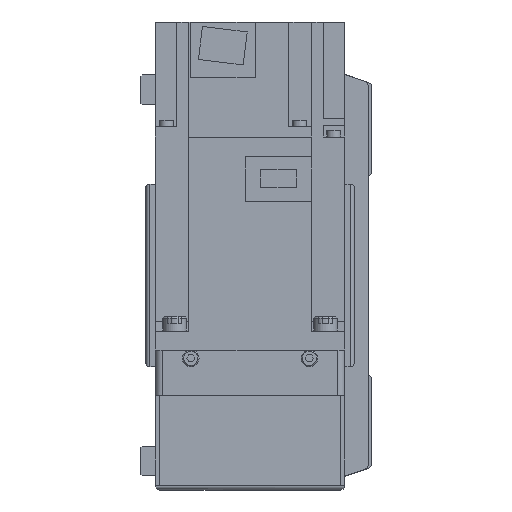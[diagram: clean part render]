
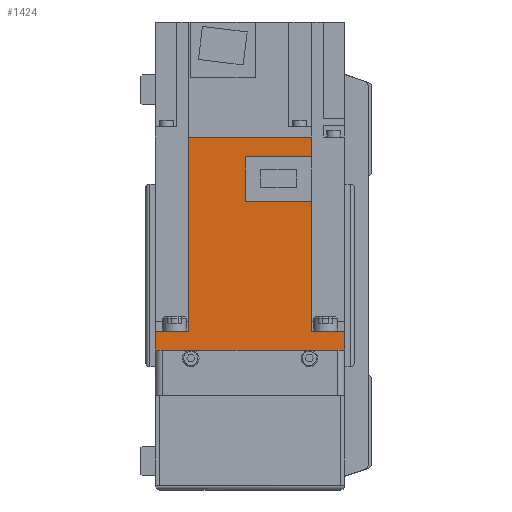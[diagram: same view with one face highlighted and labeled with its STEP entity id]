
A CAD part, left-side view. The second image highlights one B-rep face of the part: STEP entity #1424.
In plain terms, the highlighted planar face has unit normal (-1, 0, 0) as drawn and (1, 0, 0) by its records, which use the part's own axes.
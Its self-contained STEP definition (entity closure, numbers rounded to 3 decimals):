
#1424 = ADVANCED_FACE( '', ( #3636 ), #3637, .F. );
#3636 = FACE_OUTER_BOUND( '', #6882, .T. );
#3637 = PLANE( '', #6883 );
#6882 = EDGE_LOOP( '', ( #10928, #10929, #10930, #10931, #10932, #10933, #10934, #10935, #10936, #10937, #10938, #10939 ) );
#6883 = AXIS2_PLACEMENT_3D( '', #10940, #10941, #10942 );
#10928 = ORIENTED_EDGE( '', *, *, #19332, .F. );
#10929 = ORIENTED_EDGE( '', *, *, #19333, .F. );
#10930 = ORIENTED_EDGE( '', *, *, #19334, .F. );
#10931 = ORIENTED_EDGE( '', *, *, #19335, .T. );
#10932 = ORIENTED_EDGE( '', *, *, #19336, .F. );
#10933 = ORIENTED_EDGE( '', *, *, #19337, .T. );
#10934 = ORIENTED_EDGE( '', *, *, #19338, .T. );
#10935 = ORIENTED_EDGE( '', *, *, #19339, .F. );
#10936 = ORIENTED_EDGE( '', *, *, #18989, .F. );
#10937 = ORIENTED_EDGE( '', *, *, #19340, .F. );
#10938 = ORIENTED_EDGE( '', *, *, #19341, .F. );
#10939 = ORIENTED_EDGE( '', *, *, #19313, .F. );
#10940 = CARTESIAN_POINT( '', ( 40., 89.8, 40. ) );
#10941 = DIRECTION( '', ( -1., 0., 0. ) );
#10942 = DIRECTION( '', ( 0., 0., 1. ) );
#18989 = EDGE_CURVE( '', #22790, #22791, #22792, .T. );
#19313 = EDGE_CURVE( '', #23346, #23347, #23348, .T. );
#19332 = EDGE_CURVE( '', #23379, #23346, #23380, .T. );
#19333 = EDGE_CURVE( '', #23381, #23379, #23382, .T. );
#19334 = EDGE_CURVE( '', #23383, #23381, #23384, .T. );
#19335 = EDGE_CURVE( '', #23383, #23385, #23386, .T. );
#19336 = EDGE_CURVE( '', #23387, #23385, #23388, .T. );
#19337 = EDGE_CURVE( '', #23387, #23389, #23390, .T. );
#19338 = EDGE_CURVE( '', #23389, #23391, #23392, .T. );
#19339 = EDGE_CURVE( '', #22791, #23391, #23393, .T. );
#19340 = EDGE_CURVE( '', #23394, #22790, #23395, .T. );
#19341 = EDGE_CURVE( '', #23347, #23394, #23396, .T. );
#22790 = VERTEX_POINT( '', #28207 );
#22791 = VERTEX_POINT( '', #28208 );
#22792 = LINE( '', #28209, #28210 );
#23346 = VERTEX_POINT( '', #28957 );
#23347 = VERTEX_POINT( '', #28958 );
#23348 = LINE( '', #28959, #28960 );
#23379 = VERTEX_POINT( '', #29004 );
#23380 = LINE( '', #29005, #29006 );
#23381 = VERTEX_POINT( '', #29007 );
#23382 = LINE( '', #29008, #29009 );
#23383 = VERTEX_POINT( '', #29010 );
#23384 = LINE( '', #29011, #29012 );
#23385 = VERTEX_POINT( '', #29013 );
#23386 = LINE( '', #29014, #29015 );
#23387 = VERTEX_POINT( '', #29016 );
#23388 = LINE( '', #29017, #29018 );
#23389 = VERTEX_POINT( '', #29019 );
#23390 = LINE( '', #29020, #29021 );
#23391 = VERTEX_POINT( '', #29022 );
#23392 = LINE( '', #29023, #29024 );
#23393 = LINE( '', #29025, #29026 );
#23394 = VERTEX_POINT( '', #29027 );
#23395 = LINE( '', #29028, #29029 );
#23396 = LINE( '', #29030, #29031 );
#28207 = CARTESIAN_POINT( '', ( 40., 8., -25.95 ) );
#28208 = CARTESIAN_POINT( '', ( 40., 8., -40. ) );
#28209 = CARTESIAN_POINT( '', ( 40., 8., 40. ) );
#28210 = VECTOR( '', #35196, 1000. );
#28957 = CARTESIAN_POINT( '', ( 40., 81.4, 1.8 ) );
#28958 = CARTESIAN_POINT( '', ( 40., 62.8, 1.8 ) );
#28959 = CARTESIAN_POINT( '', ( 40., 81.4, 1.8 ) );
#28960 = VECTOR( '', #35615, 1000. );
#29004 = CARTESIAN_POINT( '', ( 40., 81.4, -25.95 ) );
#29005 = CARTESIAN_POINT( '', ( 40., 81.4, -26. ) );
#29006 = VECTOR( '', #35632, 1000. );
#29007 = CARTESIAN_POINT( '', ( 40., 89.8, -25.95 ) );
#29008 = CARTESIAN_POINT( '', ( 40., 158., -25.95 ) );
#29009 = VECTOR( '', #35633, 1000. );
#29010 = CARTESIAN_POINT( '', ( 40., 89.8, 25.95 ) );
#29011 = CARTESIAN_POINT( '', ( 40., 89.8, 40. ) );
#29012 = VECTOR( '', #35634, 1000. );
#29013 = CARTESIAN_POINT( '', ( 40., 8., 25.95 ) );
#29014 = CARTESIAN_POINT( '', ( 40., 158., 25.95 ) );
#29015 = VECTOR( '', #35635, 1000. );
#29016 = CARTESIAN_POINT( '', ( 40., 8., 40. ) );
#29017 = CARTESIAN_POINT( '', ( 40., 8., 40. ) );
#29018 = VECTOR( '', #35636, 1000. );
#29019 = CARTESIAN_POINT( '', ( 40., 0., 40. ) );
#29020 = CARTESIAN_POINT( '', ( 40., 89.8, 40. ) );
#29021 = VECTOR( '', #35637, 1000. );
#29022 = CARTESIAN_POINT( '', ( 40., 0., -40. ) );
#29023 = CARTESIAN_POINT( '', ( 40., 0., 40. ) );
#29024 = VECTOR( '', #35638, 1000. );
#29025 = CARTESIAN_POINT( '', ( 40., 89.8, -40. ) );
#29026 = VECTOR( '', #35639, 1000. );
#29027 = CARTESIAN_POINT( '', ( 40., 62.8, -25.95 ) );
#29028 = CARTESIAN_POINT( '', ( 40., 158., -25.95 ) );
#29029 = VECTOR( '', #35640, 1000. );
#29030 = CARTESIAN_POINT( '', ( 40., 62.8, 1.8 ) );
#29031 = VECTOR( '', #35641, 1000. );
#35196 = DIRECTION( '', ( 0., 0., -1. ) );
#35615 = DIRECTION( '', ( 0., -1., 0. ) );
#35632 = DIRECTION( '', ( 0., 0., 1. ) );
#35633 = DIRECTION( '', ( 0., -1., 0. ) );
#35634 = DIRECTION( '', ( 0., 0., -1. ) );
#35635 = DIRECTION( '', ( 0., -1., 0. ) );
#35636 = DIRECTION( '', ( 0., 0., -1. ) );
#35637 = DIRECTION( '', ( 0., -1., 0. ) );
#35638 = DIRECTION( '', ( 0., 0., -1. ) );
#35639 = DIRECTION( '', ( 0., -1., 0. ) );
#35640 = DIRECTION( '', ( 0., -1., 0. ) );
#35641 = DIRECTION( '', ( 0., 0., -1. ) );
